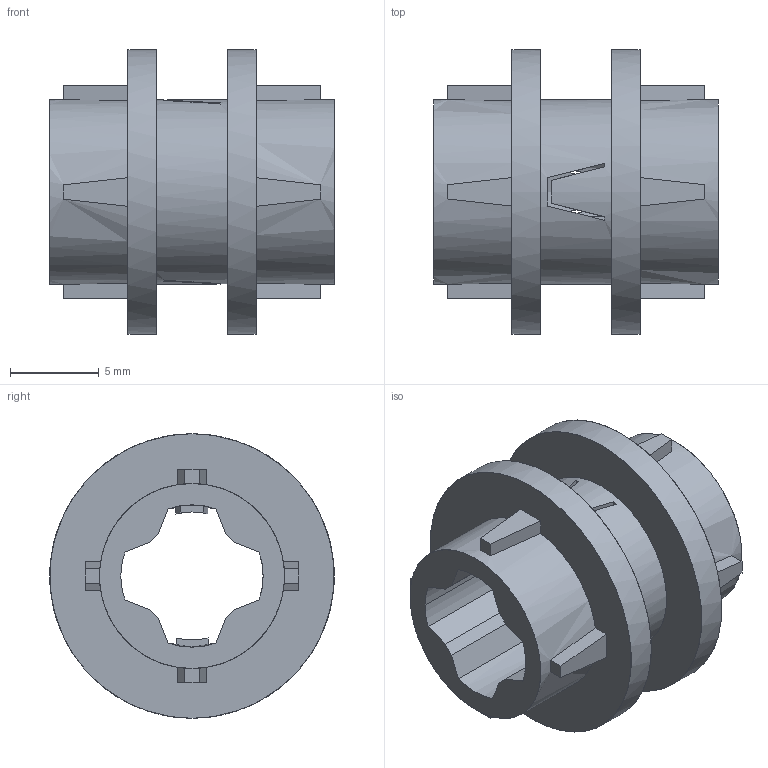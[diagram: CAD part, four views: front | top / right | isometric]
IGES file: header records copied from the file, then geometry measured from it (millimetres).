
Start section: C
Global section: file name: Red_4278957_JC.iges; native system: By Siemens PLM Incorporated; preprocessor: XPlus GENERIC/IGES 26.1.183; author: Author; organization: Title; date: 20250722.000337; units: millimetre
Bounding box: 16 x 15.97 x 16 mm (x, y, z)
Surface area: 1622.2 mm2 (no closed solid volume)
Topology: 0 solids, 0 shells, 83 faces, 496 edges, 496 vertices
Faces by surface type: bspline 83
